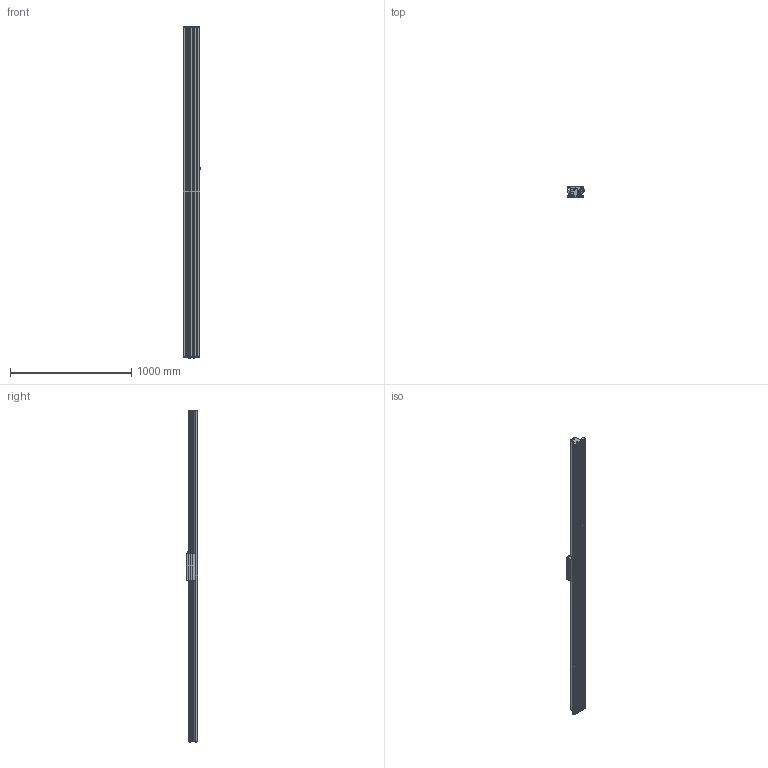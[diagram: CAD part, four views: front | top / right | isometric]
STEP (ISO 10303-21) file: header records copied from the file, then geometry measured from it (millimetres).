
FILE_DESCRIPTION (( 'STEP AP214' ), '1' );
FILE_NAME ('SINADRIVES Linear motor stage MLL20200XS-XX-1-0-ST-00-02724.STEP', '2015-07-06T09:57:11', ( 'Tecnico' ), ( '' ), 'SwSTEP 2.0', 'SolidWorks 2009', '' );
FILE_SCHEMA (( 'AUTOMOTIVE_DESIGN' ));
Length unit declared in the file: millimetre
Products named in the file (7): SINADRIVES PROFILE MLL2XXXX-2708; SINADRIVES CARRIAGE MLL20200XS-1; CARRIAGE MLL20200; Connector power+signal Y-tec 45; SINADRIVES ENDBLOCK MLL2; SINADRIVES ENDBLOCK MLL2-2; SINADRIVES Linear motor stage MLL20200XS-XX-1-0-ST-00-02724
Assembly tree (6 placements, depth 3):
  SINADRIVES Linear motor stage MLL20200XS-XX-1-0-ST-00-02724
    SINADRIVES PROFILE MLL2XXXX-2708
    SINADRIVES CARRIAGE MLL20200XS-1
      Connector power+signal Y-tec 45
      CARRIAGE MLL20200
    SINADRIVES ENDBLOCK MLL2-2
    SINADRIVES ENDBLOCK MLL2
Bounding box: 144.43 x 91 x 2732.8 mm (x, y, z)
Volume: 12093361.1 mm3; surface area: 2092686.9 mm2
Topology: 2 solids, 42 shells, 950 faces, 2640 edges, 1730 vertices
Faces by surface type: plane 445, cylinder 302, bspline 79, cone 70, torus 42, sphere 12
Entity records: 40587 total; most frequent: CARTESIAN_POINT 8656, ORIENTED_EDGE 5024, DIRECTION 4947, EDGE_CURVE 2622, AXIS2_PLACEMENT_3D 1781, VERTEX_POINT 1730, LINE 1385, VECTOR 1385
